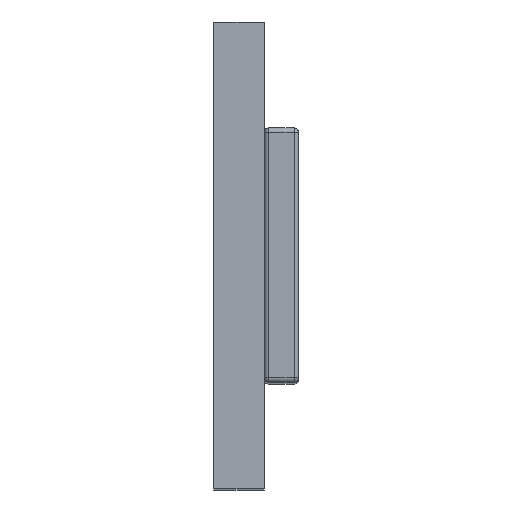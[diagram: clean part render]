
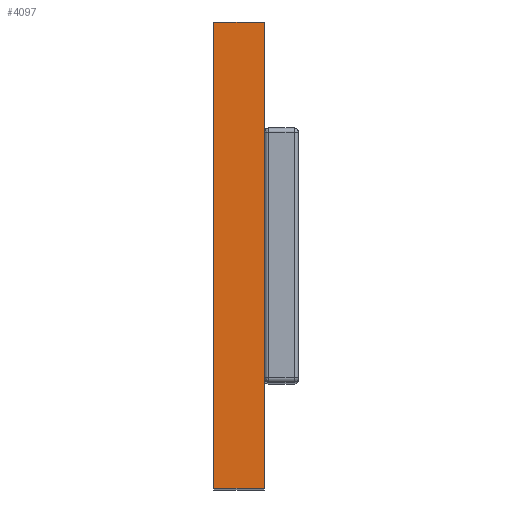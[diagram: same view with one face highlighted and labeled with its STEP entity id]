
A CAD part, top view. The second image highlights one B-rep face of the part: STEP entity #4097.
In plain terms, the highlighted planar face has unit normal (0, 0, 1).
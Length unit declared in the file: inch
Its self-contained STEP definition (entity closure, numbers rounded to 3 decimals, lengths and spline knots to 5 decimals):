
#68 = VERTEX_POINT ( 'NONE', #2848 ) ;
#220 = VERTEX_POINT ( 'NONE', #2596 ) ;
#419 = EDGE_LOOP ( 'NONE', ( #817, #608, #3722, #1068 ) ) ;
#608 = ORIENTED_EDGE ( 'NONE', *, *, #4043, .F. ) ;
#725 = VERTEX_POINT ( 'NONE', #2636 ) ;
#729 = CARTESIAN_POINT ( 'NONE',  ( 0.23622, 0., 5.03937 ) ) ;
#817 = ORIENTED_EDGE ( 'NONE', *, *, #2915, .T. ) ;
#1068 = ORIENTED_EDGE ( 'NONE', *, *, #2193, .T. ) ;
#1300 = VECTOR ( 'NONE', #2124, 39.37008 ) ;
#1636 = CARTESIAN_POINT ( 'NONE',  ( 0., 0., 5.03937 ) ) ;
#1825 = VECTOR ( 'NONE', #3501, 39.37008 ) ;
#1833 = CARTESIAN_POINT ( 'NONE',  ( 0., 2.16535, 5.03937 ) ) ;
#1967 = EDGE_CURVE ( 'NONE', #2126, #725, #3904, .T. ) ;
#2124 = DIRECTION ( 'NONE',  ( 1., 0., 0. ) ) ;
#2126 = VERTEX_POINT ( 'NONE', #2214 ) ;
#2150 = FACE_OUTER_BOUND ( 'NONE', #419, .T. ) ;
#2193 = EDGE_CURVE ( 'NONE', #2126, #220, #3536, .T. ) ;
#2214 = CARTESIAN_POINT ( 'NONE',  ( 0., 2.16535, 5.03937 ) ) ;
#2596 = CARTESIAN_POINT ( 'NONE',  ( 0., 0., 5.03937 ) ) ;
#2636 = CARTESIAN_POINT ( 'NONE',  ( 0.23622, 2.16535, 5.03937 ) ) ;
#2710 = LINE ( 'NONE', #2863, #1825 ) ;
#2738 = AXIS2_PLACEMENT_3D ( 'NONE', #1636, #2898, #3902 ) ;
#2848 = CARTESIAN_POINT ( 'NONE',  ( 0.23622, 0., 5.03937 ) ) ;
#2863 = CARTESIAN_POINT ( 'NONE',  ( 0., 0., 5.03937 ) ) ;
#2898 = DIRECTION ( 'NONE',  ( 0., 0., -1. ) ) ;
#2915 = EDGE_CURVE ( 'NONE', #220, #68, #2710, .T. ) ;
#2934 = VECTOR ( 'NONE', #3557, 39.37008 ) ;
#3162 = DIRECTION ( 'NONE',  ( 0., -1., 0. ) ) ;
#3237 = LINE ( 'NONE', #729, #2934 ) ;
#3501 = DIRECTION ( 'NONE',  ( 1., 0., 0. ) ) ;
#3536 = LINE ( 'NONE', #3880, #3738 ) ;
#3557 = DIRECTION ( 'NONE',  ( 0., -1., 0. ) ) ;
#3573 = PLANE ( 'NONE',  #2738 ) ;
#3722 = ORIENTED_EDGE ( 'NONE', *, *, #1967, .F. ) ;
#3738 = VECTOR ( 'NONE', #3162, 39.37008 ) ;
#3880 = CARTESIAN_POINT ( 'NONE',  ( 0., 0., 5.03937 ) ) ;
#3902 = DIRECTION ( 'NONE',  ( -1., 0., 0. ) ) ;
#3904 = LINE ( 'NONE', #1833, #1300 ) ;
#4043 = EDGE_CURVE ( 'NONE', #725, #68, #3237, .T. ) ;
#4097 = ADVANCED_FACE ( 'NONE', ( #2150 ), #3573, .F. ) ;
